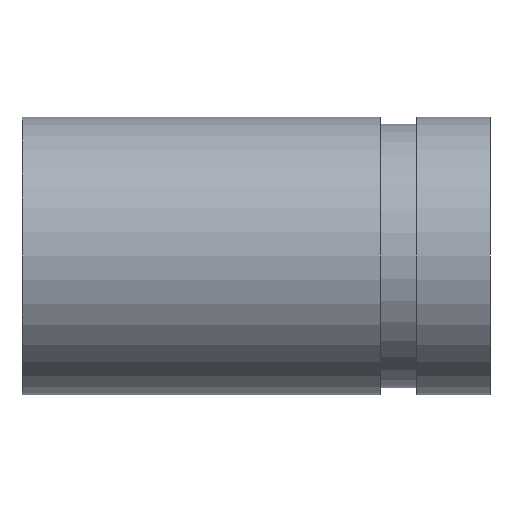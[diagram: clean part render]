
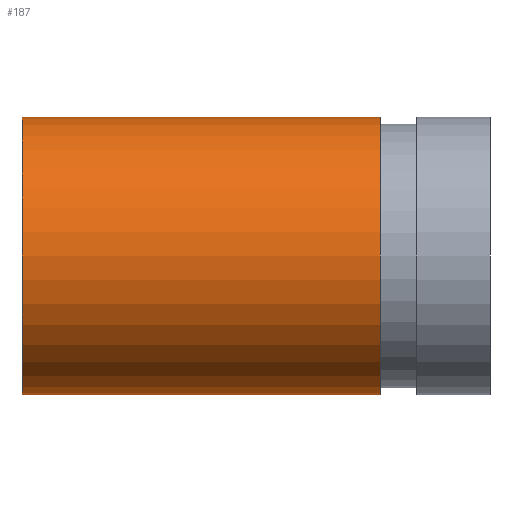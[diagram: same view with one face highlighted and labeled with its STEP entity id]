
A CAD part, front view. The second image highlights one B-rep face of the part: STEP entity #187.
In plain terms, the highlighted cylindrical face has radius 30.163 mm (diameter 60.325 mm), a full revolution.
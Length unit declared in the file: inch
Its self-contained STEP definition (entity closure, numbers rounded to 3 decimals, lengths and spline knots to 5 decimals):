
#53=FACE_OUTER_BOUND('',#61,.T.);
#61=EDGE_LOOP('',(#133,#134,#135,#136,#137,#138));
#73=LINE('',#339,#77);
#77=VECTOR('',#260,1.1875);
#81=CIRCLE('',#216,1.1875);
#82=CIRCLE('',#217,1.1875);
#83=CIRCLE('',#218,1.1875);
#84=CIRCLE('',#219,1.1875);
#97=VERTEX_POINT('',#334);
#98=VERTEX_POINT('',#335);
#99=VERTEX_POINT('',#338);
#100=VERTEX_POINT('',#340);
#113=EDGE_CURVE('',#97,#98,#81,.T.);
#114=EDGE_CURVE('',#98,#97,#82,.T.);
#115=EDGE_CURVE('',#98,#99,#73,.T.);
#116=EDGE_CURVE('',#99,#100,#83,.T.);
#117=EDGE_CURVE('',#100,#99,#84,.T.);
#133=ORIENTED_EDGE('',*,*,#113,.F.);
#134=ORIENTED_EDGE('',*,*,#114,.F.);
#135=ORIENTED_EDGE('',*,*,#115,.T.);
#136=ORIENTED_EDGE('',*,*,#116,.T.);
#137=ORIENTED_EDGE('',*,*,#117,.T.);
#138=ORIENTED_EDGE('',*,*,#115,.F.);
#173=CYLINDRICAL_SURFACE('',#215,1.1875);
#187=ADVANCED_FACE('',(#53),#173,.T.);
#215=AXIS2_PLACEMENT_3D('',#333,#254,#255);
#216=AXIS2_PLACEMENT_3D('',#336,#256,#257);
#217=AXIS2_PLACEMENT_3D('',#337,#258,#259);
#218=AXIS2_PLACEMENT_3D('',#341,#261,#262);
#219=AXIS2_PLACEMENT_3D('',#342,#263,#264);
#254=DIRECTION('center_axis',(1.,0.,0.));
#255=DIRECTION('ref_axis',(0.,1.,0.));
#256=DIRECTION('center_axis',(1.,0.,0.));
#257=DIRECTION('ref_axis',(0.,1.,0.));
#258=DIRECTION('center_axis',(1.,0.,0.));
#259=DIRECTION('ref_axis',(0.,1.,0.));
#260=DIRECTION('',(-1.,0.,0.));
#261=DIRECTION('center_axis',(1.,0.,0.));
#262=DIRECTION('ref_axis',(0.,1.,0.));
#263=DIRECTION('center_axis',(1.,0.,0.));
#264=DIRECTION('ref_axis',(0.,1.,0.));
#333=CARTESIAN_POINT('Origin',(0.061,0.,
0.));
#334=CARTESIAN_POINT('',(1.062,1.1875,0.));
#335=CARTESIAN_POINT('',(1.062,-1.1875,0.));
#336=CARTESIAN_POINT('Origin',(1.062,0.,0.));
#337=CARTESIAN_POINT('Origin',(1.062,0.,0.));
#338=CARTESIAN_POINT('',(-2.,-1.1875,0.));
#339=CARTESIAN_POINT('',(0.061,-1.1875,0.));
#340=CARTESIAN_POINT('',(-2.,1.1875,0.));
#341=CARTESIAN_POINT('Origin',(-2.,0.,0.));
#342=CARTESIAN_POINT('Origin',(-2.,0.,0.));
